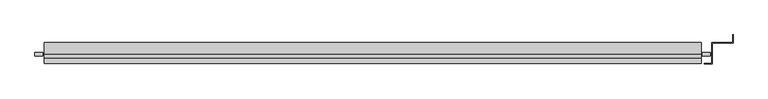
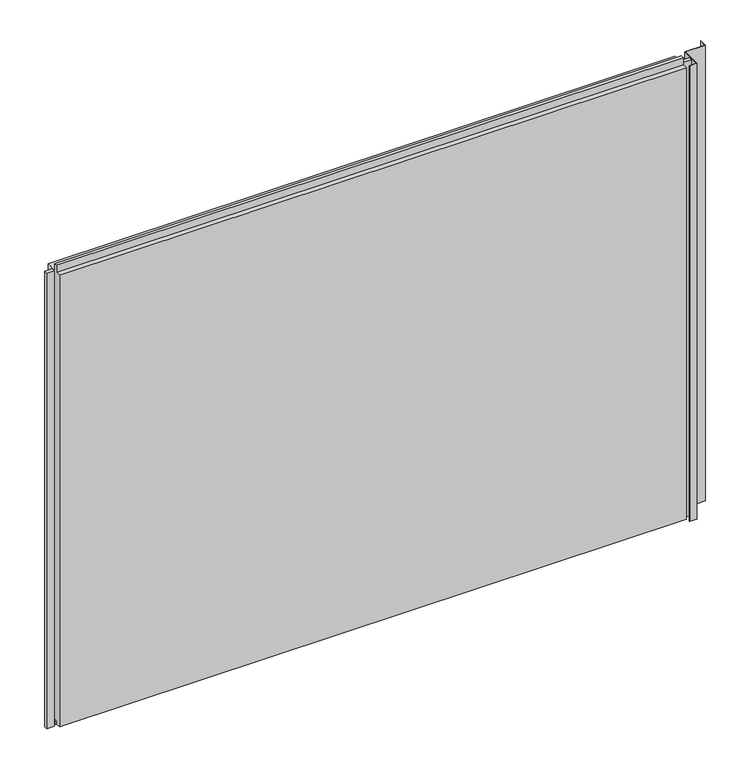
"""IFC4 building model written with IfcOpenShell, lengths in millimetres: plate geometry, Trimo_Qbiss Screen_Normal Panel-HORIZONTAL : HR - FB."""

from ifc_helpers import new_model, si_unit, frame, origin, place, context, project, spatial, polyline, outline, extrude, source, transform, mapped, element, save


def plate_82d913d7(model_context):
    return source(origin(), model_context, "Body", "SweptSolid", [
        extrude(outline(polyline([(750.0, 50.0), (750.0, 100.0), (800.0, 100.0), (800.0, 118.5), (800.8, 118.5), (800.8, 99.2), (750.8, 99.2), (750.8, 49.2), (732.5, 49.2), (732.5, 50.0), (750.0, 50.0)])), frame((0.0, 0.0, -1.0), z_axis=(0.0, 0.0, 1.0), x_axis=(1.0, 0.0, 0.0)), (0.0, 0.0, 1.0), 1200.0),
        extrude(outline(polyline([(-840.5, 76.5978162), (-840.5, 67.8978162), (-859.5, 67.8978162), (-859.5, 76.5978162), (-840.5, 76.5978162)])), frame((0.0, 0.0, -1.0), z_axis=(0.0, 0.0, 1.0), x_axis=(1.0, 0.0, 0.0)), (0.0, 0.0, 1.0), 1200.0),
        extrude(outline(polyline([(728.0, 67.8978162), (728.0, 76.5978162), (747.0, 76.5978162), (747.0, 67.8978162), (728.0, 67.8978162)])), frame((0.0, 0.0, -1.0), z_axis=(0.0, 0.0, 1.0), x_axis=(1.0, 0.0, 0.0)), (0.0, 0.0, 1.0), 1200.0),
        extrude(outline(polyline([(71.0, 1196.0), (100.0, 1196.0), (100.0, 0.0), (72.0, 0.0), (72.0, 15.5), (62.0, 15.5), (62.0, 7.0), (50.0, 7.0), (50.0, 1196.0), (63.0, 1196.0), (63.0, 1214.5), (71.0, 1214.5), (71.0, 1196.0)])), frame((-837.5, 0.0, 0.0), z_axis=(1.0, 0.0, 0.0), x_axis=(0.0, 1.0, 0.0)), (0.0, 0.0, 1.0), 1562.5),
    ])


if __name__ == "__main__":
    model = new_model("IFC4")
    model_context = context("Model", 3, world=origin())
    ifc_project = project(units=[si_unit("LENGTHUNIT", "METRE", prefix="MILLI")], contexts=[model_context])
    site = spatial("IfcSite", under=ifc_project)
    building = spatial("IfcBuilding", under=site)
    placement = place(None, origin())
    plate_shape = plate_82d913d7(model_context)
    element("IfcPlate", 1, ObjectType="Trimo_Qbiss Screen_Normal Panel-HORIZONTAL : HR - FB", at=placement, inside=building, context=model_context, shape_type="MappedRepresentation", body=[
        mapped(plate_shape, transform((0.0, 0.0, 0.0), x_axis=(1.0, 0.0, 0.0), y_axis=(0.0, 1.0, 0.0), z_axis=(0.0, 0.0, 1.0))),
    ])
    save(model, "model.ifc")
